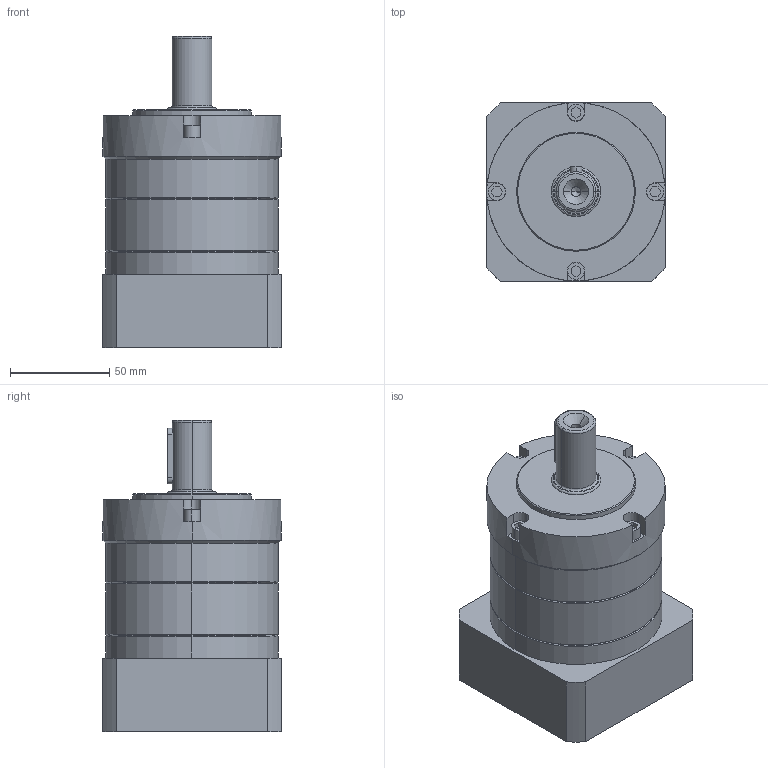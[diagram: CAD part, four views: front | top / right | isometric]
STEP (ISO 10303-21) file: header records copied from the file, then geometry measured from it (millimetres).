
FILE_DESCRIPTION (( 'STEP AP214' ), '1' );
FILE_NAME ('PLE-090-L1-S2-P2 19-70-90-M6.STEP', '2024-02-03T06:08:57', ( '微软用户' ), ( '微软中国' ), 'SwSTEP 2.0', 'SolidWorks 2018', '' );
FILE_SCHEMA (( 'AUTOMOTIVE_DESIGN' ));
Length unit declared in the file: millimetre
Products named in the file (1): PLE-090-L1-S2-P2 19-70-90-M6
Bounding box: 90 x 90 x 157 mm (x, y, z)
Volume: 719665.9 mm3; surface area: 68731.9 mm2
Topology: 1 solids, 1 shells, 142 faces, 334 edges, 213 vertices
Faces by surface type: plane 70, cylinder 50, cone 16, torus 6
Entity records: 4180 total; most frequent: CARTESIAN_POINT 751, DIRECTION 746, ORIENTED_EDGE 664, EDGE_CURVE 332, AXIS2_PLACEMENT_3D 274, VERTEX_POINT 213, VECTOR 198, LINE 198
